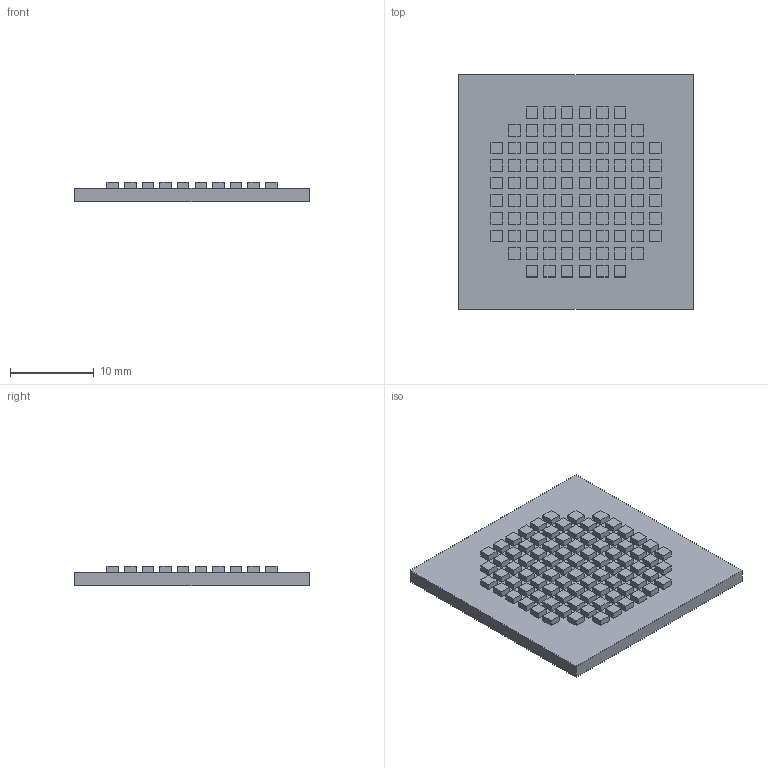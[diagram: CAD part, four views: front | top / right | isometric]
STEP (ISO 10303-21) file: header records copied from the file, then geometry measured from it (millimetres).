
FILE_DESCRIPTION((''),'2;1');
FILE_NAME('V28L23DB4_06092021_09-56-06_ASM','2021-06-09T',('SYSTEM'),(''),'PRO/ENGINEER BY PARAMETRIC TECHNOLOGY CORPORATION, 2009360','PRO/ENGINEER BY PARAMETRIC TECHNOLOGY CORPORATION, 2009360','');
FILE_SCHEMA(('AUTOMOTIVE_DESIGN_CC2 { 1 2 10303 214 -1 1 5 2 }'));
Products named in the file (3): V28L23DB4_06092021_09-56-06; FLIPCHIPWHITE10; V28L23DB4_06092021_09-56-06_ASM
Assembly tree (89 placements, depth 2):
  V28L23DB4_06092021_09-56-06_ASM
    V28L23DB4_06092021_09-56-06
    FLIPCHIPWHITE10  x88
Bounding box: 28 x 28 x 2.32 mm (x, y, z)
Volume: 1375 mm3; surface area: 2436.6 mm2
Topology: 89 solids, 89 shells, 2118 faces, 5028 edges, 3352 vertices
Faces by surface type: plane 2118
Entity records: 1818 total; most frequent: DIRECTION 313, CARTESIAN_POINT 237, ORIENTED_EDGE 138, AXIS2_PLACEMENT_3D 122, PRODUCT_DEFINITION_SHAPE 92, ITEM_DEFINED_TRANSFORMATION 89, CONTEXT_DEPENDENT_SHAPE_REPRESENTATION 89, NEXT_ASSEMBLY_USAGE_OCCURRENCE 89
